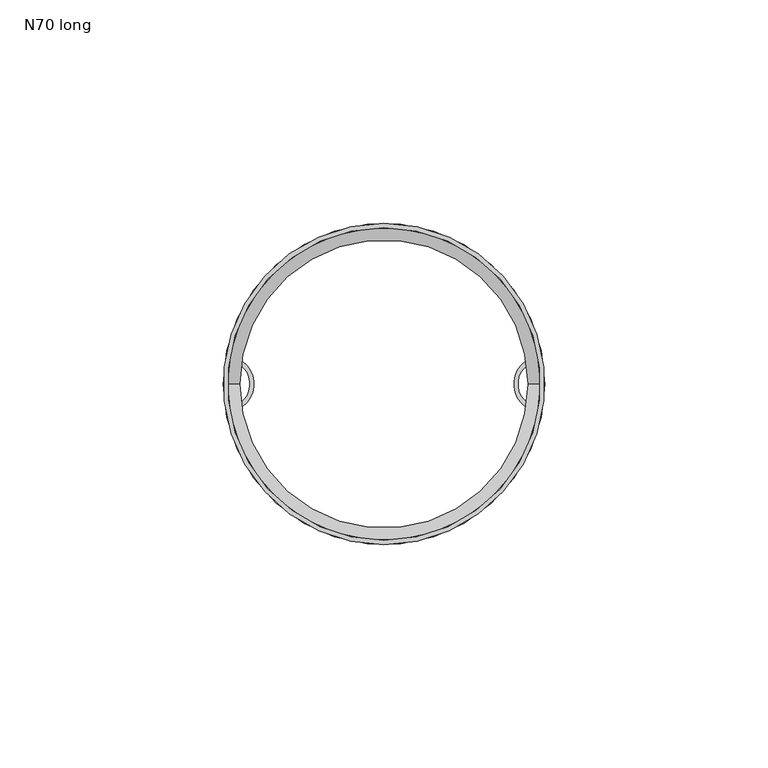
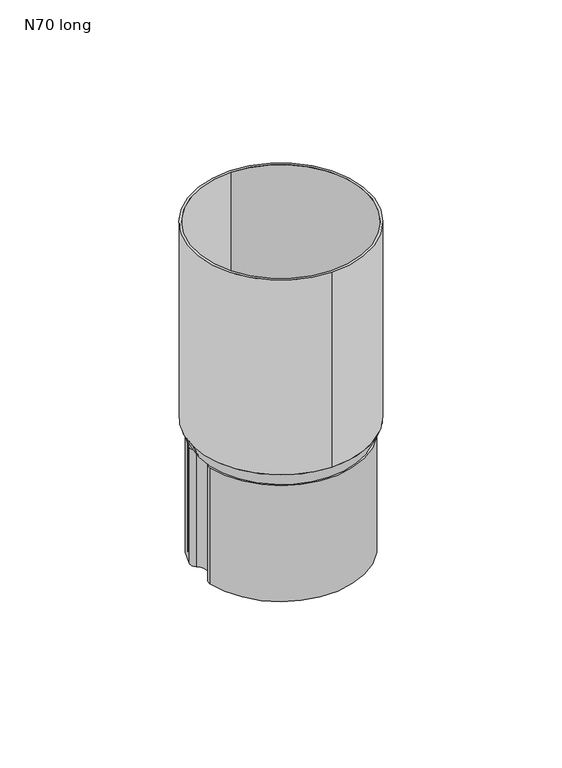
"""IFC4 building model written with IfcOpenShell, lengths in millimetres: proxy geometry, GROVIK_Downpipe_Connector : N70 long."""

from ifc_helpers import new_model, si_unit, point, frame, frame_2d, origin, origin_with_axes, origin_2d, place, context, project, spatial, polyline, circle_curve, trimmed, segment, composite_curve, outline, extrude, source, transform, mapped, element, save
from ifc_brep_helpers import plane_surface, revolved_surface, advanced_brep


def n70_long_1292884b(model_context):
    return source(origin(), model_context, "Body", "SolidModel", [
        extrude(outline(composite_curve([segment(trimmed(circle_curve(origin_2d(), 36.0), [point((0.0, 36.0))], [point((0.0, -36.0))], False, "CARTESIAN"), True, "CONTINUOUS"), segment(trimmed(circle_curve(origin_2d(), 36.0), [point((0.0, -36.0))], [point((0.0, 36.0))], False, "CARTESIAN"), True, "CONTINUOUS")], self_intersect=False), holes=[composite_curve([segment(trimmed(circle_curve(origin_2d(), 35.0), [point((0.0, 35.0))], [point((0.0, -35.0))], True, "CARTESIAN"), True, "CONTINUOUS"), segment(trimmed(circle_curve(origin_2d(), 35.0), [point((0.0, -35.0))], [point((0.0, 35.0))], True, "CARTESIAN"), True, "CONTINUOUS")], self_intersect=False)]), frame((0.0, 0.0, 6.0), z_axis=(0.0, 0.0, 1.0), x_axis=(1.0, 0.0, 0.0)), (0.0, 0.0, 1.0), 84.0),
        advanced_brep(
        [(-36.0, 0.0, 6.0), (36.0, 0.0, 6.0), (35.0, 0.0, 6.0), (-35.0, 0.0, 6.0), (-33.3, 0.0, 0.0), (33.3, 0.0, 0.0), (-32.3, 0.0, 0.0), (32.3, 0.0, 0.0)],
        [
            (0, 1, circle_curve(frame((0.0, 0.0, 6.0), z_axis=(0.0, 0.0, 1.0), x_axis=(-1.0, 0.0, 0.0)), 36.0)),
            (1, 0, circle_curve(frame((0.0, 0.0, 6.0), z_axis=(0.0, 0.0, 1.0), x_axis=(1.0, 0.0, 0.0)), 36.0)),
            (2, 3, circle_curve(frame((0.0, 0.0, 6.0), z_axis=(0.0, 0.0, -1.0), x_axis=(-1.0, 0.0, 0.0)), 35.0)),
            (3, 2, circle_curve(frame((0.0, 0.0, 6.0), z_axis=(0.0, 0.0, -1.0), x_axis=(1.0, 0.0, 0.0)), 35.0)),
            (4, 5, circle_curve(frame((0.0, 0.0, 0.0), z_axis=(0.0, 0.0, -1.0), x_axis=(1.0, 0.0, 0.0)), 33.3)),
            (5, 4, circle_curve(frame((0.0, 0.0, 0.0), z_axis=(0.0, 0.0, -1.0), x_axis=(-1.0, 0.0, 0.0)), 33.3)),
            (6, 7, circle_curve(frame((0.0, 0.0, 0.0), z_axis=(0.0, 0.0, 1.0), x_axis=(-1.0, 0.0, 0.0)), 32.3)),
            (7, 6, circle_curve(origin_with_axes(), 32.3)),
            (0, 4),
            (5, 1),
            (6, 3),
            (2, 7),
        ],
        [
            plane_surface(frame((0.0, 0.0, 6.0), z_axis=(0.0, 0.0, 1.0), x_axis=(0.0, -1.0, 0.0))),
            plane_surface(frame((0.0, 0.0, 0.0), z_axis=(0.0, 0.0, -1.0), x_axis=(0.0, -1.0, 0.0))),
            revolved_surface(polyline([(33.300000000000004, 0.0, 0.0), (36.0, 0.0, 6.0)]), (0.0, 0.0, -74.0), (0.0, 0.0, 1.0)),
            revolved_surface(polyline([(-33.300000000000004, 0.0, 0.0), (-36.0, 0.0, 6.0)]), (0.0, 0.0, -74.0), (0.0, 0.0, 1.0)),
            revolved_surface(polyline([(-35.0, 0.0, 6.0), (-32.300000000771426, 0.0, 0.0)]), (0.0, 0.0, -71.7777778), (0.0, 0.0, 1.0)),
        ],
        [
            (0, [[1, 2], [3, 4]]),
            (1, [[5, 6], [7, 8]]),
            (2, [[-1, 9, -6, 10]]),
            (3, [[-2, -10, -5, -9]]),
            (4, [[11, -3, 12, -7]]),
            (4, [[-11, -8, -12, -4]]),
        ],
    ),
        extrude(outline(composite_curve([segment(trimmed(circle_curve(origin_2d(), 34.0), [point((-33.2289031, 7.2))], [point((33.2289031, 7.2))], False, "CARTESIAN"), True, "CONTINUOUS"), segment(trimmed(circle_curve(frame_2d((30.1934466, 6.6504209)), 3.0848069), [point((33.2289031, 7.2))], [point((32.0721698, 4.2037022))], False, "CARTESIAN"), True, "CONTINUOUS"), segment(trimmed(circle_curve(frame_2d((35.3, 0.0)), 5.3), [point((32.0721698, 4.2037022))], [point((32.0749594, -4.2058428))], True, "CARTESIAN"), True, "CONTINUOUS"), segment(trimmed(circle_curve(frame_2d((30.203401, -6.6465812)), 3.0757007), [point((32.0749594, -4.2058428))], [point((33.2289031, -7.2))], False, "CARTESIAN"), True, "CONTINUOUS"), segment(trimmed(circle_curve(origin_2d(), 34.0), [point((33.2289031, -7.2))], [point((-33.2289031, -7.2))], False, "CARTESIAN"), True, "CONTINUOUS"), segment(trimmed(circle_curve(frame_2d((-30.203401, -6.6465812)), 3.0757007), [point((-33.2289031, -7.2))], [point((-32.0749594, -4.2058428))], False, "CARTESIAN"), True, "CONTINUOUS"), segment(trimmed(circle_curve(frame_2d((-35.3, 0.0)), 5.3), [point((-32.0749594, -4.2058428))], [point((-32.0721698, 4.2037022))], True, "CARTESIAN"), True, "CONTINUOUS"), segment(trimmed(circle_curve(frame_2d((-30.1934466, 6.6504209)), 3.0848069), [point((-32.0721698, 4.2037022))], [point((-33.2289031, 7.2))], False, "CARTESIAN"), True, "CONTINUOUS")], self_intersect=False), holes=[composite_curve([segment(trimmed(circle_curve(frame_2d((-30.1934466, 6.6504209)), 2.0848069), [point((-32.2071275, 7.1903364))], [point((-31.4631452, 4.9968535))], True, "CARTESIAN"), True, "CONTINUOUS"), segment(trimmed(circle_curve(frame_2d((-35.3, 0.0)), 6.3), [point((-31.4631452, 4.9968535))], [point((-31.4664612, -4.999398))], False, "CARTESIAN"), True, "CONTINUOUS"), segment(trimmed(circle_curve(frame_2d((-30.203401, -6.6465812)), 2.0757007), [point((-31.4664612, -4.999398))], [point((-32.2096516, -7.1790209))], True, "CARTESIAN"), True, "CONTINUOUS"), segment(trimmed(circle_curve(origin_2d(), 33.0), [point((-32.2096516, -7.1790209))], [point((32.2096516, -7.1790209))], True, "CARTESIAN"), True, "CONTINUOUS"), segment(trimmed(circle_curve(frame_2d((30.203401, -6.6465812)), 2.0757007), [point((32.2096516, -7.1790209))], [point((31.4664612, -4.999398))], True, "CARTESIAN"), True, "CONTINUOUS"), segment(trimmed(circle_curve(frame_2d((35.3, 0.0)), 6.3), [point((31.4664612, -4.999398))], [point((31.4631452, 4.9968535))], False, "CARTESIAN"), True, "CONTINUOUS"), segment(trimmed(circle_curve(frame_2d((30.1934466, 6.6504209)), 2.0848069), [point((31.4631452, 4.9968535))], [point((32.2071275, 7.1903364))], True, "CARTESIAN"), True, "CONTINUOUS"), segment(trimmed(circle_curve(origin_2d(), 33.0), [point((32.2071275, 7.1903364))], [point((-32.2071275, 7.1903364))], True, "CARTESIAN"), True, "CONTINUOUS")], self_intersect=False)]), frame((0.0, 0.0, -50.0), z_axis=(0.0, 0.0, 1.0), x_axis=(1.0, 0.0, 0.0)), (0.0, 0.0, 1.0), 50.0),
    ])


if __name__ == "__main__":
    model = new_model("IFC4")
    model_context = context("Model", 3, world=origin())
    ifc_project = project(units=[si_unit("LENGTHUNIT", "METRE", prefix="MILLI")], contexts=[model_context])
    site = spatial("IfcSite", under=ifc_project)
    building = spatial("IfcBuilding", under=site)
    placement = place(None, origin())
    n70_long_shape = n70_long_1292884b(model_context)
    element("IfcBuildingElementProxy", 1, Name="GROVIK_Downpipe_Connector : N70 long", ObjectType="GROVIK_Downpipe_Connector : N70 long", at=placement, inside=building, context=model_context, shape_type="MappedRepresentation", body=[
        mapped(n70_long_shape, transform((0.0, 0.0, 0.0), x_axis=(1.0, 0.0, 0.0), y_axis=(0.0, 1.0, 0.0), z_axis=(0.0, 0.0, 1.0))),
    ])
    save(model, "model.ifc")
